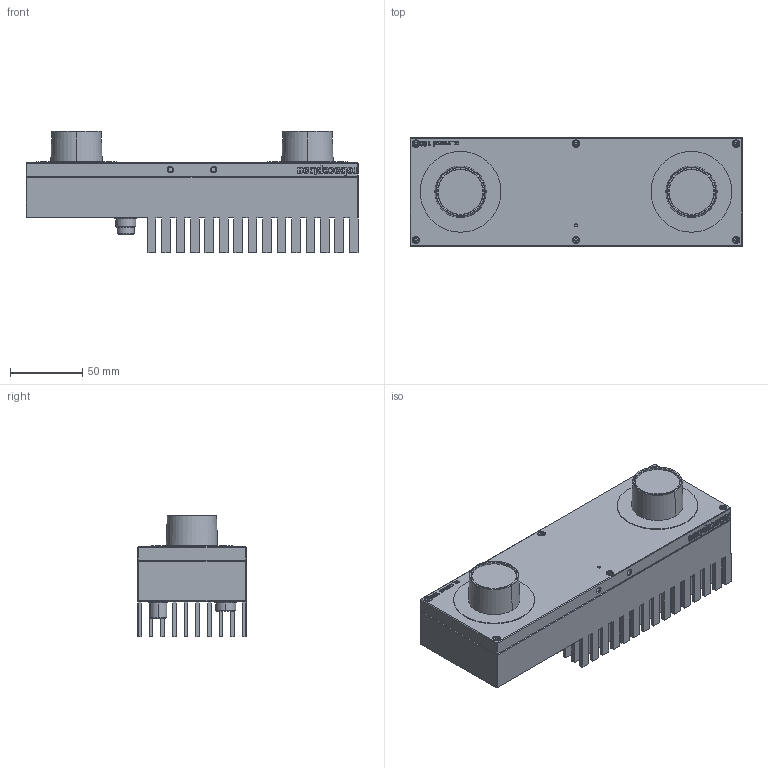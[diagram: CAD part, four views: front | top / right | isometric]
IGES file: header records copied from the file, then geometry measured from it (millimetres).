
Start section:  PTC IGES file: rc_visard160.igs
Global section: file name: rc_visard160.igs; native system: Creo Parametric by PTC Inc.; preprocessor: 2018500; author: seibold; organization: Unknown; date: 20200925.111630; units: millimetre
Bounding box: 230 x 75.24 x 84 mm (x, y, z)
Surface area: 175404.2 mm2 (no closed solid volume)
Topology: 0 solids, 0 shells, 1414 faces, 7400 edges, 7394 vertices
Faces by surface type: bspline 972, extrusion 298, revolution 144
